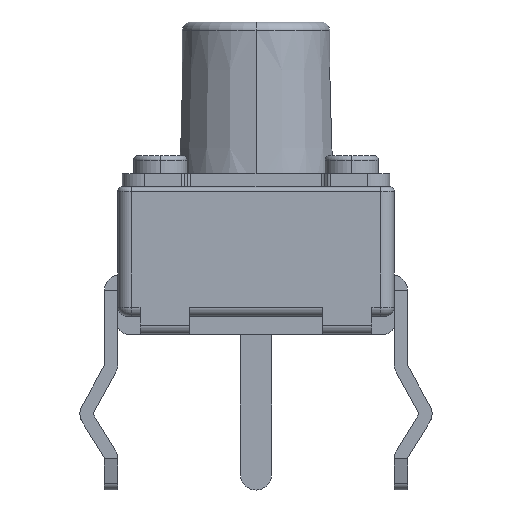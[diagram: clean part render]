
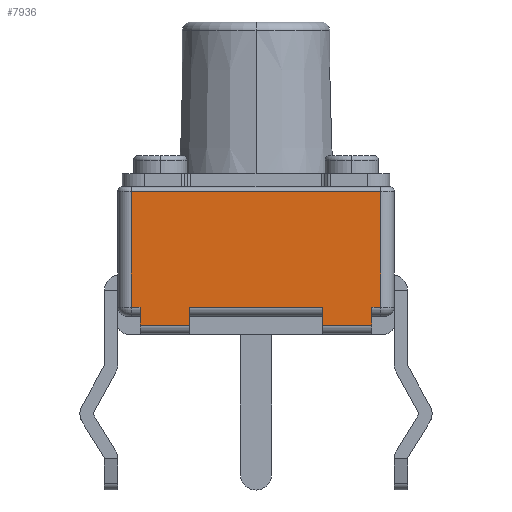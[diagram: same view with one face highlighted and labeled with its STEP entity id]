
A CAD part, front view. The second image highlights one B-rep face of the part: STEP entity #7936.
In plain terms, the highlighted planar face has unit normal (0, -1, 0) as drawn and (0, 0, -1) by its records, which use the part's own axes.
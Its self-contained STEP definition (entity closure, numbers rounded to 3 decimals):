
#1440 = DIRECTION ( 'NONE',  ( 1., 0., 0. ) ) ;
#1441 = VECTOR ( 'NONE', #1440, 1000. ) ;
#1442 = CARTESIAN_POINT ( 'NONE',  ( 0., 0.2, -3.1 ) ) ;
#1443 = LINE ( 'NONE', #1442, #1441 ) ;
#1657 = VECTOR ( 'NONE', #1694, 1000. ) ;
#1658 = CARTESIAN_POINT ( 'NONE',  ( 0., 0.6, -3.1 ) ) ;
#1659 = LINE ( 'NONE', #1658, #1657 ) ;
#1694 = DIRECTION ( 'NONE',  ( -1., 0., 0. ) ) ;
#1700 = CARTESIAN_POINT ( 'NONE',  ( 1.5, 0.6, -3.1 ) ) ;
#1848 = DIRECTION ( 'NONE',  ( -1., 0., 0. ) ) ;
#1849 = VECTOR ( 'NONE', #1848, 1000. ) ;
#1850 = CARTESIAN_POINT ( 'NONE',  ( 0., 0.6, -3.1 ) ) ;
#1851 = LINE ( 'NONE', #1850, #1849 ) ;
#1857 = CARTESIAN_POINT ( 'NONE',  ( 2.8, 0.6, -3.1 ) ) ;
#1968 = CARTESIAN_POINT ( 'NONE',  ( 2.6, 0.6, -3.1 ) ) ;
#2794 = CARTESIAN_POINT ( 'NONE',  ( -1.5, 0.6, -3.1 ) ) ;
#2798 = CARTESIAN_POINT ( 'NONE',  ( -1.5, 0.2, -3.1 ) ) ;
#3979 = CARTESIAN_POINT ( 'NONE',  ( -2.6, 0.2, -3.1 ) ) ;
#3998 = CARTESIAN_POINT ( 'NONE',  ( -2.8, 3.2, -3.1 ) ) ;
#4126 = DIRECTION ( 'NONE',  ( 0., -1., 0. ) ) ;
#4127 = VECTOR ( 'NONE', #4126, 1000. ) ;
#4137 = CARTESIAN_POINT ( 'NONE',  ( -2.8, 3.3, -3.1 ) ) ;
#4138 = LINE ( 'NONE', #4137, #4127 ) ;
#4589 = DIRECTION ( 'NONE',  ( 0., -1., 0. ) ) ;
#5617 = DIRECTION ( 'NONE',  ( 1., 0., 0. ) ) ;
#5618 = VECTOR ( 'NONE', #5617, 1000. ) ;
#5623 = CARTESIAN_POINT ( 'NONE',  ( 0., 0.6, -3.1 ) ) ;
#5630 = LINE ( 'NONE', #5623, #5618 ) ;
#5668 = CARTESIAN_POINT ( 'NONE',  ( -2.8, 0.6, -3.1 ) ) ;
#5678 = CARTESIAN_POINT ( 'NONE',  ( -2.6, 0.6, -3.1 ) ) ;
#5970 = LINE ( 'NONE', #5995, #5994 ) ;
#5993 = DIRECTION ( 'NONE',  ( 0., -1., 0. ) ) ;
#5994 = VECTOR ( 'NONE', #5993, 1000. ) ;
#5995 = CARTESIAN_POINT ( 'NONE',  ( -2.6, 0.4, -3.1 ) ) ;
#6033 = VECTOR ( 'NONE', #4589, 1000. ) ;
#6034 = CARTESIAN_POINT ( 'NONE',  ( -1.5, 0.4, -3.1 ) ) ;
#6035 = LINE ( 'NONE', #6034, #6033 ) ;
#6738 = EDGE_CURVE ( 'NONE', #6759, #6754, #5630, .T. ) ;
#6754 = VERTEX_POINT ( 'NONE', #5678 ) ;
#6759 = VERTEX_POINT ( 'NONE', #5668 ) ;
#6870 = EDGE_CURVE ( 'NONE', #6754, #12235, #5970, .T. ) ;
#6887 = EDGE_CURVE ( 'NONE', #10616, #10614, #6035, .T. ) ;
#7353 = CARTESIAN_POINT ( 'NONE',  ( 2.6, 0.2, -3.1 ) ) ;
#7754 = VERTEX_POINT ( 'NONE', #7353 ) ;
#7779 = EDGE_CURVE ( 'NONE', #9564, #7754, #12359, .T. ) ;
#7815 = EDGE_CURVE ( 'NONE', #12227, #7818, #12373, .T. ) ;
#7818 = VERTEX_POINT ( 'NONE', #12375 ) ;
#7825 = EDGE_CURVE ( 'NONE', #9456, #7843, #12372, .T. ) ;
#7843 = VERTEX_POINT ( 'NONE', #12474 ) ;
#7882 = EDGE_CURVE ( 'NONE', #7818, #9519, #12642, .T. ) ;
#7888 = ORIENTED_EDGE ( 'NONE', *, *, #9383, .F. ) ;
#7899 = ORIENTED_EDGE ( 'NONE', *, *, #9518, .T. ) ;
#7907 = ORIENTED_EDGE ( 'NONE', *, *, #7930, .T. ) ;
#7927 = ORIENTED_EDGE ( 'NONE', *, *, #7779, .T. ) ;
#7928 = ORIENTED_EDGE ( 'NONE', *, *, #7882, .T. ) ;
#7929 = ORIENTED_EDGE ( 'NONE', *, *, #7825, .F. ) ;
#7930 = EDGE_CURVE ( 'NONE', #7754, #7843, #12742, .T. ) ;
#7931 = EDGE_LOOP ( 'NONE', ( #7929, #7945, #7938, #7888, #7940, #7941, #7942, #7943, #7928, #7899, #7927, #7907 ) ) ;
#7936 = ADVANCED_FACE ( 'NONE', ( #12725 ), #12820, .F. ) ;
#7938 = ORIENTED_EDGE ( 'NONE', *, *, #6887, .T. ) ;
#7940 = ORIENTED_EDGE ( 'NONE', *, *, #6870, .F. ) ;
#7941 = ORIENTED_EDGE ( 'NONE', *, *, #6738, .F. ) ;
#7942 = ORIENTED_EDGE ( 'NONE', *, *, #12296, .F. ) ;
#7943 = ORIENTED_EDGE ( 'NONE', *, *, #7815, .T. ) ;
#7945 = ORIENTED_EDGE ( 'NONE', *, *, #9444, .T. ) ;
#9383 = EDGE_CURVE ( 'NONE', #12235, #10614, #1443, .T. ) ;
#9444 = EDGE_CURVE ( 'NONE', #9456, #10616, #1659, .T. ) ;
#9456 = VERTEX_POINT ( 'NONE', #1700 ) ;
#9518 = EDGE_CURVE ( 'NONE', #9519, #9564, #1851, .T. ) ;
#9519 = VERTEX_POINT ( 'NONE', #1857 ) ;
#9564 = VERTEX_POINT ( 'NONE', #1968 ) ;
#10614 = VERTEX_POINT ( 'NONE', #2798 ) ;
#10616 = VERTEX_POINT ( 'NONE', #2794 ) ;
#12227 = VERTEX_POINT ( 'NONE', #3998 ) ;
#12235 = VERTEX_POINT ( 'NONE', #3979 ) ;
#12296 = EDGE_CURVE ( 'NONE', #12227, #6759, #4138, .T. ) ;
#12355 = DIRECTION ( 'NONE',  ( 0., -1., 0. ) ) ;
#12356 = VECTOR ( 'NONE', #12355, 1000. ) ;
#12357 = CARTESIAN_POINT ( 'NONE',  ( 2.6, 0.4, -3.1 ) ) ;
#12359 = LINE ( 'NONE', #12357, #12356 ) ;
#12369 = DIRECTION ( 'NONE',  ( 1., 0., 0. ) ) ;
#12370 = VECTOR ( 'NONE', #12369, 1000. ) ;
#12372 = LINE ( 'NONE', #12392, #12391 ) ;
#12373 = LINE ( 'NONE', #12374, #12370 ) ;
#12374 = CARTESIAN_POINT ( 'NONE',  ( 0., 3.2, -3.1 ) ) ;
#12375 = CARTESIAN_POINT ( 'NONE',  ( 2.8, 3.2, -3.1 ) ) ;
#12391 = VECTOR ( 'NONE', #12418, 1000. ) ;
#12392 = CARTESIAN_POINT ( 'NONE',  ( 1.5, 0.4, -3.1 ) ) ;
#12418 = DIRECTION ( 'NONE',  ( 0., -1., 0. ) ) ;
#12474 = CARTESIAN_POINT ( 'NONE',  ( 1.5, 0.2, -3.1 ) ) ;
#12639 = DIRECTION ( 'NONE',  ( 0., -1., 0. ) ) ;
#12640 = VECTOR ( 'NONE', #12639, 1000. ) ;
#12641 = CARTESIAN_POINT ( 'NONE',  ( 2.8, 3.3, -3.1 ) ) ;
#12642 = LINE ( 'NONE', #12641, #12640 ) ;
#12725 = FACE_OUTER_BOUND ( 'NONE', #7931, .T. ) ;
#12741 = CARTESIAN_POINT ( 'NONE',  ( 0., 0.2, -3.1 ) ) ;
#12742 = LINE ( 'NONE', #12741, #12787 ) ;
#12786 = DIRECTION ( 'NONE',  ( -1., 0., 0. ) ) ;
#12787 = VECTOR ( 'NONE', #12786, 1000. ) ;
#12819 = CARTESIAN_POINT ( 'NONE',  ( 0., 3.3, -3.1 ) ) ;
#12820 = PLANE ( 'NONE',  #12821 ) ;
#12821 = AXIS2_PLACEMENT_3D ( 'NONE', #12819, #12853, #12852 ) ;
#12852 = DIRECTION ( 'NONE',  ( 1., 0., 0. ) ) ;
#12853 = DIRECTION ( 'NONE',  ( 0., 0., 1. ) ) ;
